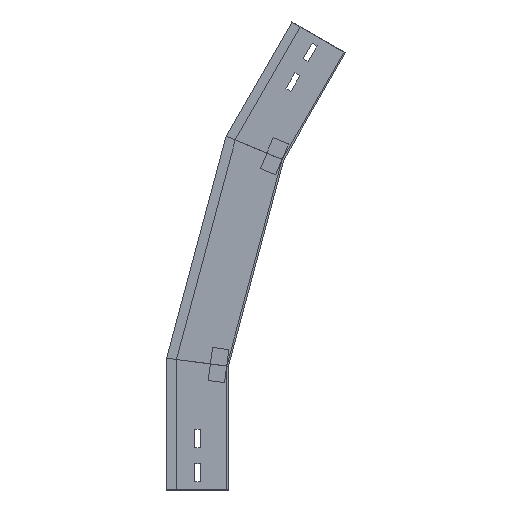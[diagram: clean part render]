
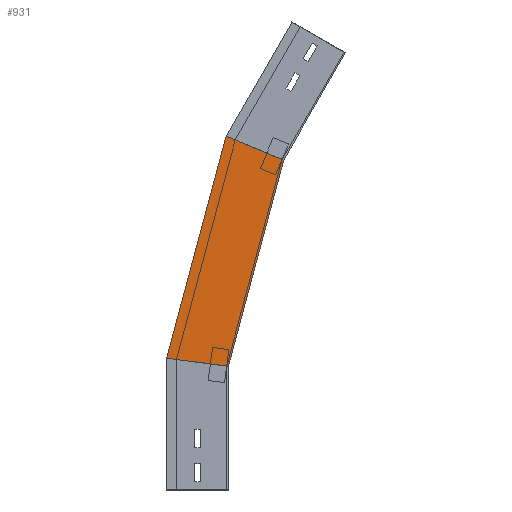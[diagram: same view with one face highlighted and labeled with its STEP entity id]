
A CAD part, left-side view. The second image highlights one B-rep face of the part: STEP entity #931.
In plain terms, the highlighted planar face has unit normal (-1, 0, 0) as drawn and (1, 0, 0) by its records, which use the part's own axes.
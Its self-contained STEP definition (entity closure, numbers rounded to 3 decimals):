
#22 = CARTESIAN_POINT ( 'NONE',  ( 0., 2.837, 139.412 ) ) ;
#203 = ORIENTED_EDGE ( 'NONE', *, *, #1301, .T. ) ;
#253 = LINE ( 'NONE', #1085, #351 ) ;
#287 = ORIENTED_EDGE ( 'NONE', *, *, #768, .F. ) ;
#338 = LINE ( 'NONE', #1171, #640 ) ;
#351 = VECTOR ( 'NONE', #715, 1000. ) ;
#368 = DIRECTION ( 'NONE',  ( 0., 0., -1. ) ) ;
#370 = EDGE_CURVE ( 'NONE', #546, #1115, #801, .T. ) ;
#479 = CARTESIAN_POINT ( 'NONE',  ( 0., 2.855, 429.124 ) ) ;
#516 = FACE_OUTER_BOUND ( 'NONE', #1341, .T. ) ;
#546 = VERTEX_POINT ( 'NONE', #844 ) ;
#557 = CARTESIAN_POINT ( 'NONE',  ( 0., 0., 150. ) ) ;
#562 = ORIENTED_EDGE ( 'NONE', *, *, #370, .F. ) ;
#564 = CARTESIAN_POINT ( 'NONE',  ( 0., -99.589, 386.69 ) ) ;
#603 = EDGE_CURVE ( 'NONE', #546, #1357, #253, .T. ) ;
#640 = VECTOR ( 'NONE', #1385, 1000. ) ;
#715 = DIRECTION ( 'NONE',  ( 0., -0.259, 0.966 ) ) ;
#768 = EDGE_CURVE ( 'NONE', #1115, #815, #338, .T. ) ;
#801 = LINE ( 'NONE', #1038, #1384 ) ;
#811 = CARTESIAN_POINT ( 'NONE',  ( 0., -67.034, 400.175 ) ) ;
#815 = VERTEX_POINT ( 'NONE', #811 ) ;
#844 = CARTESIAN_POINT ( 'NONE',  ( 0., 75., 159.874 ) ) ;
#918 = VECTOR ( 'NONE', #1042, 1000. ) ;
#931 = ADVANCED_FACE ( 'NONE', ( #516 ), #1197, .T. ) ;
#1038 = CARTESIAN_POINT ( 'NONE',  ( 0., -19.411, 147.444 ) ) ;
#1042 = DIRECTION ( 'NONE',  ( 0., -0.924, -0.383 ) ) ;
#1085 = CARTESIAN_POINT ( 'NONE',  ( 0., 75.281, 158.824 ) ) ;
#1115 = VERTEX_POINT ( 'NONE', #557 ) ;
#1153 = AXIS2_PLACEMENT_3D ( 'NONE', #22, #1416, #368 ) ;
#1171 = CARTESIAN_POINT ( 'NONE',  ( 0., 2.837, 139.412 ) ) ;
#1179 = DIRECTION ( 'NONE',  ( 0., -0.991, -0.131 ) ) ;
#1197 = PLANE ( 'NONE',  #1153 ) ;
#1301 = EDGE_CURVE ( 'NONE', #1357, #815, #1383, .T. ) ;
#1341 = EDGE_LOOP ( 'NONE', ( #1445, #203, #287, #562 ) ) ;
#1357 = VERTEX_POINT ( 'NONE', #479 ) ;
#1383 = LINE ( 'NONE', #564, #918 ) ;
#1384 = VECTOR ( 'NONE', #1179, 1000. ) ;
#1385 = DIRECTION ( 'NONE',  ( 0., -0.259, 0.966 ) ) ;
#1416 = DIRECTION ( 'NONE',  ( 1., 0., 0. ) ) ;
#1445 = ORIENTED_EDGE ( 'NONE', *, *, #603, .T. ) ;
